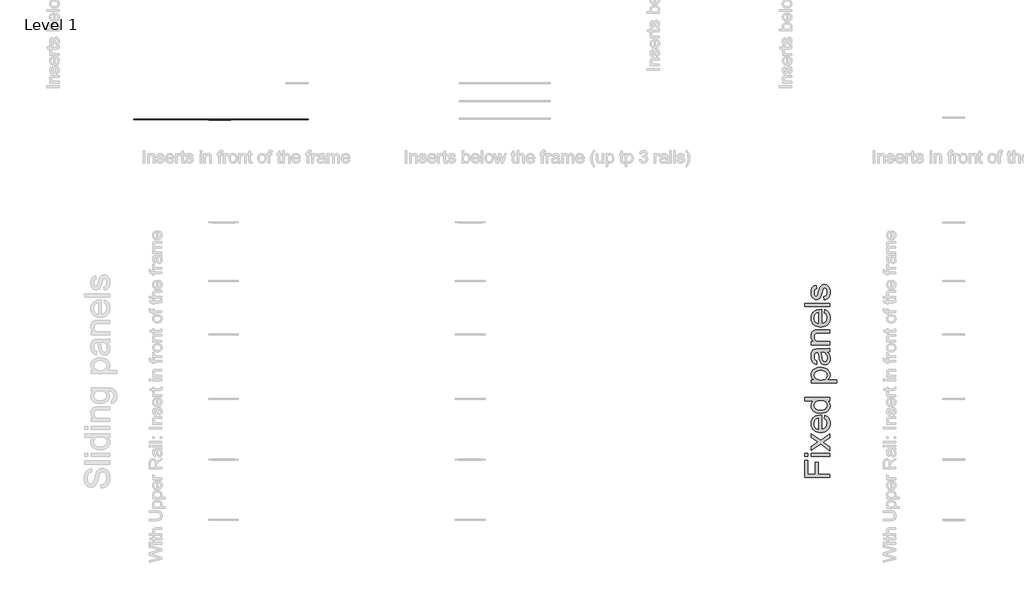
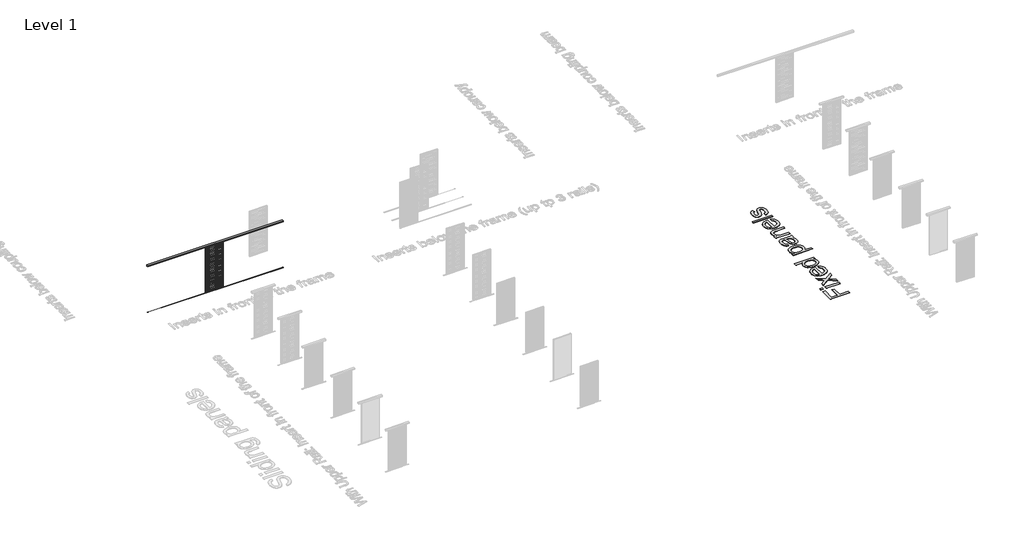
# One storey, part 27 of 80: 2 proxies.
"""IFC4 building model written with IfcOpenShell, lengths in millimetres."""

from ifc_helpers import new_model, si_unit, origin, origin_with_axes, place, context, project, spatial, polyline, outline, extrude, transform, mapped, element, save
from components import generic_models_aa7866da

model = new_model("IFC4")

# Units and contexts
model_context = context("Model", 3, world=origin())
ifc_project = project(units=[si_unit("LENGTHUNIT", "METRE", prefix="MILLI")], contexts=[model_context])

# Site, building, storey
site = spatial("IfcSite", under=ifc_project)
building = spatial("IfcBuilding", under=site)
storey = spatial("IfcBuildingStorey", under=building, Name="Level 1", Elevation=0.0)

# Proxies
placement = place(None, origin())
generic_models_shape = generic_models_aa7866da(model_context)
element("IfcBuildingElementProxy", 1, Name="Renson_Amani_Loggia_Paro_Aluminium_Sliding : Renson_Amani_Loggia_Paro_Aluminium_Sliding", ObjectType="Renson_Amani_Loggia_Paro_Aluminium_Sliding : Renson_Amani_Loggia_Paro_Aluminium_Sliding", at=placement, inside=storey, context=model_context, shape_type="MappedRepresentation", body=[
    mapped(generic_models_shape, transform((418960.5749426, -45135.3676714, 0.0), x_axis=(1.0, 0.0, 0.0), y_axis=(0.0, 1.0, 0.0), z_axis=(0.0, 0.0, 1.0))),
])
element("IfcBuildingElementProxy", 2, Name="1000mm Arial", ObjectType="1000mm Arial", at=placement, inside=storey, context=model_context, shape_type="SweptSolid", body=[
    extrude(outline(polyline([(443438.2731482, -59505.5279902), (442433.7100467, -59505.5279902), (442433.7100467, -58830.5871564), (442559.2804344, -58830.5871564), (442559.2804344, -59379.9576025), (442857.5101052, -59379.9576025), (442857.5101052, -58909.0686487), (442983.0804929, -58909.0686487), (442983.0804929, -59379.9576025), (443438.2731482, -59379.9576025), (443438.2731482, -59505.5279902)])), origin_with_axes(), (0.0, 0.0, 1.0), 5.0),
    extrude(outline(polyline([(442559.2804344, -58673.6241718), (442433.7100467, -58673.6241718), (442433.7100467, -58548.0537841), (442559.2804344, -58548.0537841), (442559.2804344, -58673.6241718)])), origin_with_axes(), (0.0, 0.0, 1.0), 5.0),
    extrude(outline(polyline([(443438.2731482, -58673.6241718), (442700.5471206, -58673.6241718), (442700.5471206, -58548.0537841), (443438.2731482, -58548.0537841), (443438.2731482, -58673.6241718)])), origin_with_axes(), (0.0, 0.0, 1.0), 5.0),
    extrude(outline(polyline([(443438.2731482, -58438.1796949), (443067.4480971, -58169.8710931), (442700.5471206, -58422.4833964), (442700.5471206, -58271.4065237), (442877.1304783, -58149.514956), (442960.5170638, -58092.6158741), (442892.3362674, -58043.3196867), (442700.5471206, -57904.5055472), (442700.5471206, -57753.4286745), (443067.4480971, -58018.7942204), (443438.2731482, -57763.2388611), (443438.2731482, -57914.3157338), (443215.3366592, -58068.0904077), (443174.624385, -58096.294694), (443438.2731482, -58287.1028222), (443438.2731482, -58438.1796949)])), origin_with_axes(), (0.0, 0.0, 1.0), 5.0),
    extrude(outline(polyline([(443218.5249698, -57136.8584506), (443234.2212682, -57013.7406096), (443283.532784, -57032.6175544), (443326.9888447, -57058.1010468), (443364.5894503, -57090.1910867), (443396.3346008, -57128.8876741), (443421.5498459, -57173.7922701), (443439.5607352, -57224.506336), (443450.3672688, -57281.0298717), (443453.9694467, -57343.3628773), (443452.4155285, -57383.3815405), (443447.7537738, -57421.2772181), (443439.9841827, -57457.0499101), (443429.1067552, -57490.6996163), (443415.1214912, -57522.2263369), (443398.0283908, -57551.6300718), (443377.827454, -57578.910821), (443354.5186807, -57604.0685845), (443328.4048072, -57626.6588383), (443299.7885697, -57646.2370582), (443268.6699682, -57662.8032443), (443235.0490027, -57676.3573966), (443198.9256733, -57686.899515), (443160.2999798, -57694.4295996), (443119.1719224, -57698.9476503), (443075.541501, -57700.4536672), (443030.4261392, -57698.9323219), (442987.9089441, -57694.3682859), (442947.9899155, -57686.7615592), (442910.6690535, -57676.1121419), (442875.9463581, -57662.4200339), (442843.8218293, -57645.6852352), (442814.2954671, -57625.9077459), (442787.3672714, -57603.0875658), (442763.3399786, -57577.8416639), (442742.5163249, -57550.7870089), (442724.8963101, -57521.9236007), (442710.4799344, -57491.2514393), (442699.2671978, -57458.7705248), (442691.2581002, -57424.4808572), (442686.4526416, -57388.3824364), (442684.8508221, -57350.4752625), (442686.4488095, -57313.8077743), (442691.2427718, -57278.8532366), (442699.2327089, -57245.6116494), (442710.4186208, -57214.0830128), (442724.8005075, -57184.2673267), (442742.3783691, -57156.1645912), (442763.1522055, -57129.7748062), (442787.1220168, -57105.0979717), (442813.9888987, -57082.766385), (442843.4539473, -57063.4123431), (442875.5171624, -57047.0358462), (442910.1785442, -57033.6368941), (442947.4380925, -57023.215487), (442987.2958074, -57015.7716248), (443074.805737, -57009.816535), (443108.6508806, -57010.5522989), (443108.6508806, -57574.8832795), (443158.759474, -57567.6099459), (443202.6447303, -57553.147585), (443240.3066496, -57531.4961967), (443271.7452318, -57502.6557812), (443296.5312812, -57468.2204936), (443314.2356022, -57429.7844893), (443324.8581948, -57387.3477683), (443328.399059, -57340.9103306), (443326.7589184, -57306.1761389), (443321.8384968, -57274.0784348), (443313.637794, -57244.6172184), (443302.15681, -57217.7924896), (443287.0889766, -57193.6042484), (443268.1277255, -57172.0524948), (443245.2730565, -57153.1372289), (443218.5249698, -57136.8584506)]), holes=[polyline([(442983.0804929, -57574.8832795), (442983.0804929, -57135.3869226), (442947.5492235, -57141.840186), (442916.7391064, -57152.3708081), (442890.6501416, -57166.978789), (442869.282329, -57185.6641287), (442843.5305894, -57219.907811), (442825.1364896, -57258.8726457), (442814.1000298, -57302.5586326), (442810.4212098, -57350.9657718), (442813.3566016, -57395.1192754), (442822.1627768, -57435.6092875), (442836.8397356, -57472.4358081), (442857.3874778, -57505.5988371), (442882.8556418, -57533.4275772), (442912.2938656, -57554.251231), (442945.7021493, -57568.0697984), (442983.0804929, -57574.8832795)])]), origin_with_axes(), (0.0, 0.0, 1.0), 5.0),
    extrude(outline(polyline([(443438.2731482, -56429.0534919), (443319.8151458, -56429.0534919), (443351.2575601, -56446.8459513), (443378.5076524, -56466.6234407), (443401.5654229, -56488.3859599), (443420.4308715, -56512.1335091), (443435.1039981, -56537.8660883), (443445.5848029, -56565.5836974), (443451.8732857, -56595.2863364), (443453.9694467, -56626.9740053), (443450.9344202, -56668.4220434), (443441.8293409, -56708.1532989), (443426.6542086, -56746.1677717), (443405.4090233, -56782.4654619), (443378.7299145, -56815.9120667), (443347.2530113, -56845.3732831), (443310.9783137, -56870.8491113), (443269.9058218, -56892.3395512), (443224.8172847, -56909.4000787), (443176.4944518, -56921.5861698), (443124.9373231, -56928.8978244), (443070.1458984, -56931.3350427), (443016.358485, -56929.0894296), (442965.1155888, -56922.3525906), (442916.4172097, -56911.1245255), (442870.2633477, -56895.4052345), (442828.0029035, -56875.2023816), (442790.9847777, -56850.523631), (442759.2089704, -56821.3689829), (442732.6754815, -56787.7384372), (442711.752193, -56750.8199461), (442696.806987, -56711.801462), (442687.8398633, -56670.6829849), (442684.8508221, -56627.4645146), (442686.9891362, -56595.8573199), (442693.4040785, -56566.0282214), (442704.095649, -56537.9772193), (442719.0638477, -56511.7043135), (442737.4502832, -56487.5007439), (442758.3965643, -56465.6577504), (442781.902691, -56446.1753331), (442807.9686632, -56429.0534919), (442433.7100467, -56429.0534919), (442433.7100467, -56303.4831042), (443438.2731482, -56303.4831042), (443438.2731482, -56429.0534919)]), holes=[polyline([(443069.6553891, -56805.764655), (443130.5475235, -56802.2237908), (443183.2389551, -56791.6011982), (443227.7296839, -56773.8968771), (443264.0197099, -56749.1108277), (443292.1856751, -56719.5116555), (443312.3042217, -56687.3679662), (443324.3753497, -56652.6797597), (443328.399059, -56615.4470361), (443324.5592907, -56578.0380357), (443313.0399857, -56543.5567629), (443293.8411441, -56512.0032176), (443266.9627658, -56483.3773999), (443232.1902531, -56459.6106901), (443189.309008, -56442.6344689), (443138.3190306, -56432.4487362), (443079.2203209, -56429.0534919), (443014.4271045, -56432.5100498), (442958.8615949, -56442.8797236), (442912.5237919, -56460.1625131), (442875.4136956, -56484.3584185), (442846.9794831, -56513.6127013), (442826.6693313, -56546.0706232), (442814.4832402, -56581.7321841), (442810.4212098, -56620.5973841), (442814.3222918, -56658.5658716), (442826.0255378, -56693.2540781), (442845.5309477, -56724.6620034), (442872.8385216, -56752.7896477), (442908.5460678, -56775.9662134), (442953.2513944, -56792.5209031), (443006.9545015, -56802.453717), (443069.6553891, -56805.764655)])]), origin_with_axes(), (0.0, 0.0, 1.0), 5.0),
    extrude(outline(polyline([(443720.8065205, -55722.7200612), (442700.5471206, -55722.7200612), (442700.5471206, -55597.1496735), (442823.6649616, -55597.1496735), (442791.1303977, -55577.2840457), (442762.9337756, -55556.1921447), (442739.0750954, -55533.8739703), (442719.554357, -55510.3295226), (442704.3715605, -55484.8843513), (442693.5267058, -55456.864006), (442687.019793, -55426.2684867), (442684.8508221, -55393.0977935), (442687.8858486, -55349.3045076), (442696.990928, -55308.1783663), (442712.1660603, -55269.7193694), (442733.4112455, -55233.9275169), (442760.1746606, -55201.5845582), (442791.9044827, -55173.4722424), (442828.6007117, -55149.5905695), (442870.2633477, -55129.9395396), (442915.4668478, -55114.5957947), (442962.7856695, -55103.6359769), (443012.2198126, -55097.0600863), (443063.7692771, -55094.8681227), (443118.8825985, -55097.343662), (443171.1601629, -55104.7702798), (443220.6019702, -55117.1479761), (443267.2080205, -55134.4767509), (443309.7597046, -55156.5190138), (443347.0384134, -55183.0371742), (443379.044147, -55214.0312323), (443405.7769053, -55249.501188), (443426.8611422, -55287.7072661), (443441.9213114, -55326.9096912), (443450.9574129, -55367.1084634), (443453.9694467, -55408.3035826), (443451.9537599, -55437.9410759), (443445.9066996, -55466.030399), (443435.8282658, -55492.5715521), (443421.7184585, -55517.5645352), (443385.2061704, -55561.6797178), (443340.1712829, -55597.1496735), (443720.8065205, -55597.1496735), (443720.8065205, -55722.7200612)]), holes=[polyline([(443075.2962463, -55597.1496735), (443135.8128345, -55593.7544292), (443187.8681369, -55583.5686965), (443231.4621533, -55566.5924753), (443266.5948838, -55542.8257655), (443293.6342105, -55514.2152762), (443312.9480152, -55482.7077161), (443324.5362981, -55448.3030854), (443328.399059, -55411.0013839), (443324.3983423, -55373.1631879), (443312.3961922, -55338.130092), (443292.3926087, -55305.9020964), (443264.3875918, -55276.479201), (443227.9826027, -55251.9613989), (443182.7791026, -55234.4486831), (443128.7770914, -55223.9410536), (443065.9765691, -55220.4385104), (443005.9811471, -55223.8567473), (442954.0178152, -55234.1114579), (442910.0865737, -55251.2026423), (442874.1874223, -55275.1303004), (442846.2897043, -55303.8097676), (442826.3627629, -55335.1563792), (442814.4065981, -55369.1701354), (442810.4212098, -55405.851036), (442814.659517, -55442.4169735), (442827.3744384, -55476.8216042), (442848.5659742, -55509.0649283), (442878.2341242, -55539.1469456), (442915.9803498, -55564.523139), (442961.406112, -55582.6489915), (443014.5114108, -55593.524503), (443075.2962463, -55597.1496735)])]), origin_with_axes(), (0.0, 0.0, 1.0), 5.0),
    extrude(outline(polyline([(443344.0953575, -54482.7124828), (443372.0390607, -54512.4879317), (443395.5375231, -54542.7079048), (443414.5907448, -54573.3724019), (443429.1987257, -54604.4814232), (443440.0359161, -54636.387522), (443447.7767664, -54669.4432521), (443452.4212766, -54703.6486135), (443453.9694467, -54739.0036061), (443450.2446415, -54794.9140051), (443439.0702259, -54843.9419452), (443420.4461999, -54886.0874263), (443394.3725635, -54921.3504483), (443362.5047856, -54949.1945168), (443326.4983354, -54969.0831372), (443286.3532126, -54981.0163094), (443242.0694175, -54984.9940335), (443190.0141152, -54978.9852942), (443165.7798887, -54971.4743702), (443142.7412788, -54960.9590765), (443102.2742593, -54933.153329), (443070.6364077, -54897.8060006), (443046.724078, -54856.265992), (443029.4336243, -54809.8822038), (443019.8073787, -54764.6940321), (443010.5490152, -54701.2343879), (442990.6833874, -54572.8435716), (442979.4629866, -54523.2714727), (442967.3841944, -54483.4482467), (442939.4251628, -54482.7124828), (442908.9829277, -54484.8737895), (442883.3844722, -54491.3577096), (442862.6297963, -54502.1642433), (442846.7189, -54517.2933903), (442830.8386605, -54543.4436688), (442819.4956323, -54575.2961182), (442812.6898154, -54612.8507385), (442810.4212098, -54656.1075298), (442811.9310588, -54696.3292946), (442816.4606059, -54730.9102022), (442824.009851, -54759.8502525), (442834.5787941, -54783.1494455), (442848.9951698, -54802.2946376), (442868.0867125, -54818.7726853), (442891.8534223, -54832.5835886), (442920.295299, -54843.7273474), (442904.5990006, -54969.297735), (442868.4239377, -54959.7404674), (442835.9276948, -54947.5007268), (442807.1102718, -54932.5785134), (442781.9716688, -54914.9738271), (442760.006048, -54893.9279113), (442740.7075717, -54868.6820094), (442724.0762398, -54839.2361213), (442710.1120524, -54805.5902472), (442699.0602642, -54768.4265015), (442691.1661297, -54728.4269987), (442686.429649, -54685.5917389), (442684.8508221, -54639.920722), (442690.4303657, -54555.0319516), (442697.4047952, -54519.1864497), (442707.1689965, -54487.7402034), (442732.3382563, -54437.0031449), (442747.0612003, -54417.4517497), (442763.2096871, -54401.7784438), (442801.3774441, -54378.4179371), (442848.4356826, -54363.2734617), (442891.8457581, -54358.6749367), (442958.3097719, -54357.1420951), (443114.5369925, -54357.1420951), (443250.6226739, -54355.5479398), (443332.6910156, -54350.7654738), (443386.6163847, -54341.3231693), (443438.2731482, -54325.7494981), (443438.2731482, -54451.3198858), (443394.6178181, -54471.4307682), (443344.0953575, -54482.7124828)]), holes=[polyline([(443092.9545821, -54482.7124828), (443113.8625422, -54567.080087), (443131.4595643, -54685.2928348), (443141.0858098, -54750.4386047), (443151.8157013, -54793.327514), (443165.7339035, -54821.4398298), (443184.9250809, -54842.2558194), (443207.9177056, -54855.1316892), (443233.2402496, -54859.4236458), (443252.7533237, -54857.0860623), (443270.5802721, -54850.0733118), (443286.7210946, -54838.3853942), (443301.1757914, -54822.0223096), (443313.085971, -54801.1373422), (443321.5932421, -54775.8837761), (443326.6976048, -54746.2616113), (443328.399059, -54712.2708477), (443326.521328, -54677.5673129), (443320.8881349, -54644.8258153), (443311.4994799, -54614.046355), (443298.3553627, -54585.2289321), (443282.5441012, -54559.2319378), (443265.1540127, -54536.9137634), (443246.1850973, -54518.274409), (443225.637355, -54503.3138745), (443207.2432553, -54494.6226623), (443184.9250809, -54488.4146537), (443128.5165083, -54483.4482467), (443092.9545821, -54482.7124828)])]), origin_with_axes(), (0.0, 0.0, 1.0), 5.0),
    extrude(outline(polyline([(443438.2731482, -54184.482812), (442700.5471206, -54184.482812), (442700.5471206, -54058.9124243), (442803.5540792, -54058.9124243), (442775.7330033, -54038.1960695), (442751.6214042, -54015.2877511), (442731.2192819, -53990.1874691), (442714.5266364, -53962.8952236), (442701.5434676, -53933.4110145), (442692.2697757, -53901.7348419), (442686.7055605, -53867.8667057), (442684.8508221, -53831.806606), (442690.8289045, -53769.9104603), (442698.3015076, -53740.9167605), (442708.7631518, -53713.2259762), (442721.65435, -53687.8881038), (442736.4156151, -53665.9531398), (442753.046947, -53647.4210843), (442771.5483456, -53632.2919372), (442814.0693729, -53609.4525967), (442863.8867264, -53594.6453464), (442911.5274448, -53589.6789395), (442985.2877848, -53588.0234705), (443438.2731482, -53588.0234705), (443438.2731482, -53713.5938582), (443002.2103566, -53713.5938582), (442937.2791845, -53717.2113645), (442891.1099941, -53728.0638833), (442873.6432635, -53736.6861176), (442858.0312713, -53748.0827952), (442844.2740176, -53762.2539162), (442832.3715022, -53779.1994806), (442815.9087829, -53819.0840203), (442810.4212098, -53865.4064948), (442813.5022215, -53903.5359308), (442822.7452566, -53938.9522371), (442838.1503152, -53971.6554136), (442859.7173972, -54001.6454604), (442889.8990492, -54026.6997571), (442931.1478179, -54044.5956833), (442983.4637033, -54055.3332391), (443046.8467054, -54058.9124243), (443438.2731482, -54058.9124243), (443438.2731482, -54184.482812)])), origin_with_axes(), (0.0, 0.0, 1.0), 5.0),
    extrude(outline(polyline([(443218.5249698, -52898.8578662), (443234.2212682, -52775.7400251), (443283.532784, -52794.61697), (443326.9888447, -52820.1004624), (443364.5894503, -52852.1905023), (443396.3346008, -52890.8870896), (443421.5498459, -52935.7916857), (443439.5607352, -52986.5057515), (443450.3672688, -53043.0292873), (443453.9694467, -53105.3622928), (443452.4155285, -53145.3809561), (443447.7537738, -53183.2766337), (443439.9841827, -53219.0493256), (443429.1067552, -53252.6990319), (443415.1214912, -53284.2257524), (443398.0283908, -53313.6294873), (443377.827454, -53340.9102365), (443354.5186807, -53366.0680001), (443328.4048072, -53388.6582538), (443299.7885697, -53408.2364738), (443268.6699682, -53424.8026599), (443235.0490027, -53438.3568121), (443198.9256733, -53448.8989305), (443160.2999798, -53456.4290151), (443119.1719224, -53460.9470659), (443075.541501, -53462.4530828), (443030.4261392, -53460.9317375), (442987.9089441, -53456.3677015), (442947.9899155, -53448.7609748), (442910.6690535, -53438.1115575), (442875.9463581, -53424.4194494), (442843.8218293, -53407.6846508), (442814.2954671, -53387.9071614), (442787.3672714, -53365.0869814), (442763.3399786, -53339.8410795), (442742.5163249, -53312.7864244), (442724.8963101, -53283.9230162), (442710.4799344, -53253.2508549), (442699.2671978, -53220.7699404), (442691.2581002, -53186.4802728), (442686.4526416, -53150.381852), (442684.8508221, -53112.4746781), (442686.4488095, -53075.8071898), (442691.2427718, -53040.8526521), (442699.2327089, -53007.611065), (442710.4186208, -52976.0824283), (442724.8005075, -52946.2667423), (442742.3783691, -52918.1640067), (442763.1522055, -52891.7742217), (442787.1220168, -52867.0973873), (442813.9888987, -52844.7658005), (442843.4539473, -52825.4117587), (442875.5171624, -52809.0352618), (442910.1785442, -52795.6363097), (442947.4380925, -52785.2149026), (442987.2958074, -52777.7710403), (443074.805737, -52771.8159505), (443108.6508806, -52772.5517145), (443108.6508806, -53336.8826951), (443158.759474, -53329.6093615), (443202.6447303, -53315.1470006), (443240.3066496, -53293.4956123), (443271.7452318, -53264.6551967), (443296.5312812, -53230.2199091), (443314.2356022, -53191.7839048), (443324.8581948, -53149.3471839), (443328.399059, -53102.9097462), (443326.7589184, -53068.1755545), (443321.8384968, -53036.0778504), (443313.637794, -53006.6166339), (443302.15681, -52979.7919051), (443287.0889766, -52955.6036639), (443268.1277255, -52934.0519104), (443245.2730565, -52915.1366445), (443218.5249698, -52898.8578662)]), holes=[polyline([(442983.0804929, -53336.8826951), (442983.0804929, -52897.3863382), (442947.5492235, -52903.8396015), (442916.7391064, -52914.3702237), (442890.6501416, -52928.9782045), (442869.282329, -52947.6635442), (442843.5305894, -52981.9072266), (442825.1364896, -53020.8720613), (442814.1000298, -53064.5580482), (442810.4212098, -53112.9651874), (442813.3566016, -53157.118691), (442822.1627768, -53197.6087031), (442836.8397356, -53234.4352237), (442857.3874778, -53267.5982527), (442882.8556418, -53295.4269928), (442912.2938656, -53316.2506465), (442945.7021493, -53330.069214), (442983.0804929, -53336.8826951)])]), origin_with_axes(), (0.0, 0.0, 1.0), 5.0),
    extrude(outline(polyline([(443438.2731482, -52646.2455628), (442433.7100467, -52646.2455628), (442433.7100467, -52520.6751751), (443438.2731482, -52520.6751751), (443438.2731482, -52646.2455628)])), origin_with_axes(), (0.0, 0.0, 1.0), 5.0),
    extrude(outline(polyline([(443218.5249698, -52379.408489), (443202.8286713, -52253.8381013), (443231.4621533, -52246.2505352), (443256.5394426, -52234.0337872), (443278.0605393, -52217.1878575), (443296.0254434, -52195.7127461), (443310.1889002, -52169.5471392), (443320.3056551, -52138.6297232), (443326.375708, -52102.960498), (443328.399059, -52062.5394638), (443326.5443206, -52022.1644148), (443320.9801054, -51987.3689095), (443311.7064135, -51958.1529477), (443298.7232447, -51934.5165295), (443283.2415441, -51916.2757139), (443266.4722565, -51903.2465599), (443248.4153819, -51895.4290675), (443229.0709203, -51892.8232367), (443212.1176917, -51895.4443959), (443197.0651867, -51903.3078736), (443183.9134054, -51916.4136697), (443172.6623477, -51934.7617842), (443156.7207946, -51981.7893659), (443136.8551669, -52064.0109918), (443103.7151305, -52178.6062333), (443075.4188737, -52253.1023373), (443061.2324242, -52278.6778002), (443044.5474429, -52300.9576535), (443025.3639297, -52319.9418973), (443003.6818846, -52335.6305316), (442980.1527653, -52347.9162574), (442955.4280296, -52356.6917758), (442929.5076773, -52361.9570869), (442902.3917086, -52363.7121905), (442853.7393147, -52358.0713333), (442808.8270545, -52341.1487615), (442769.4330242, -52314.4773168), (442737.3353201, -52279.589841), (442717.1324672, -52244.9169629), (442700.1792386, -52199.759448), (442688.6829262, -52147.5508615), (442684.8508221, -52091.7247688), (442686.391328, -52049.5256382), (442691.0128455, -52009.9936522), (442698.7153748, -51973.1288106), (442709.4989158, -51938.9311134), (442722.9112802, -51908.2129668), (442738.5002797, -51881.7867769), (442756.2659144, -51859.6525435), (442776.2081842, -51841.8102667), (442799.0245322, -51827.3402416), (442825.4124011, -51815.3227631), (442855.3717911, -51805.7578312), (442888.9027021, -51798.6454459), (442904.5990006, -51924.2158336), (442883.6220626, -51930.2015803), (442865.0823429, -51940.0654163), (442848.9798414, -51953.8073416), (442835.3145581, -51971.4273563), (442824.4237182, -51993.0021025), (442816.6445469, -52018.6082222), (442811.9770441, -52048.2457155), (442810.4212098, -52081.9145822), (442811.9080662, -52120.9713874), (442816.3686354, -52154.0194533), (442823.8029174, -52181.0587799), (442834.2109122, -52202.0893673), (442846.5962727, -52217.8623079), (442859.9626518, -52229.128694), (442874.3100496, -52235.8885256), (442889.6384661, -52238.1418029), (442908.9522708, -52234.4016692), (442926.1814109, -52223.1812684), (442941.5711411, -52203.990091), (442953.8951879, -52176.3376277), (442980.6279462, -52068.1803211), (443013.4307575, -51957.2332427), (443039.7343201, -51883.8714415), (443052.5642047, -51858.0583882), (443067.9999201, -51835.1883908), (443086.0414663, -51815.2614494), (443106.6888432, -51798.277564), (443129.9727079, -51784.7042512), (443155.9237169, -51775.0090278), (443184.5418705, -51769.1918937), (443215.8271685, -51767.252849), (443247.2504222, -51769.5291189), (443277.753971, -51776.3579284), (443307.3378148, -51787.7392776), (443336.0019536, -51803.6731665), (443362.6044204, -51823.8990121), (443386.0032481, -51848.1562311), (443406.1984368, -51876.4448237), (443423.1899864, -51908.7647898), (443436.6560003, -51944.2347455), (443446.2745816, -51981.9733069), (443452.0457304, -52021.9804739), (443453.9694467, -52064.2562465), (443450.2599699, -52131.8392347), (443439.1315396, -52190.8689665), (443420.5841556, -52241.3454419), (443394.6178181, -52283.2686609), (443361.3551544, -52317.5123433), (443320.9187918, -52344.9502088), (443273.3087302, -52365.5822573), (443218.5249698, -52379.408489)])), origin_with_axes(), (0.0, 0.0, 1.0), 5.0),
])

save(model, "model.ifc")
